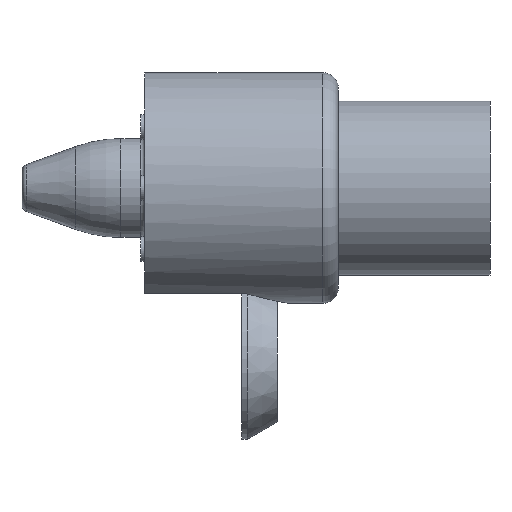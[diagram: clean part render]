
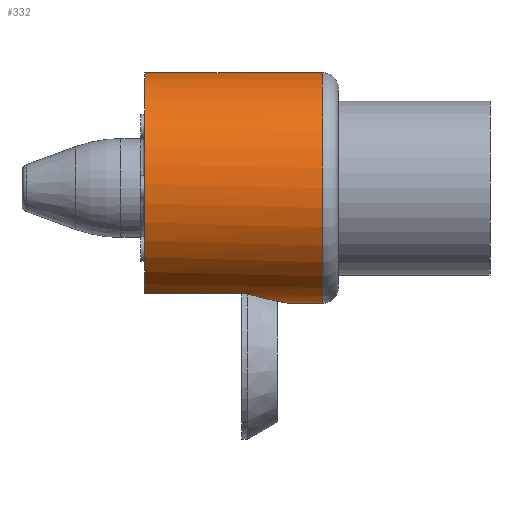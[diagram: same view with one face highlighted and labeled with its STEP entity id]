
A CAD part, left-side view. The second image highlights one B-rep face of the part: STEP entity #332.
In plain terms, the highlighted cylindrical face has radius 11.113 mm (diameter 22.225 mm), a partial arc.
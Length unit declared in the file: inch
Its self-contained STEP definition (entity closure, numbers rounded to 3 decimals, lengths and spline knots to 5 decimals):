
#31 = CYLINDRICAL_SURFACE ( 'NONE', #270, 0.4375 ) ;
#34 = LINE ( 'NONE', #1388, #131 ) ;
#50 = ORIENTED_EDGE ( 'NONE', *, *, #1076, .T. ) ;
#51 = EDGE_CURVE ( 'NONE', #1231, #901, #34, .T. ) ;
#54 = DIRECTION ( 'NONE',  ( 0., -1., 0. ) ) ;
#77 = CARTESIAN_POINT ( 'NONE',  ( -0.04015, 0.19853, -0.43576 ) ) ;
#83 = CARTESIAN_POINT ( 'NONE',  ( -0.16349, 0.33003, -0.40597 ) ) ;
#98 = CARTESIAN_POINT ( 'NONE',  ( 0., 0.18943, -0.4375 ) ) ;
#110 = VECTOR ( 'NONE', #1201, 39.37008 ) ;
#131 = VECTOR ( 'NONE', #1398, 39.37008 ) ;
#194 = ORIENTED_EDGE ( 'NONE', *, *, #920, .F. ) ;
#270 = AXIS2_PLACEMENT_3D ( 'NONE', #610, #54, #271 ) ;
#271 = DIRECTION ( 'NONE',  ( 0., 0., -1. ) ) ;
#332 = ADVANCED_FACE ( 'NONE', ( #726 ), #31, .T. ) ;
#354 = ORIENTED_EDGE ( 'NONE', *, *, #1095, .T. ) ;
#381 = CARTESIAN_POINT ( 'NONE',  ( -0.00519, 0.18943, -0.4375 ) ) ;
#409 = CARTESIAN_POINT ( 'NONE',  ( -0.02551, 0.19321, -0.43678 ) ) ;
#438 = ORIENTED_EDGE ( 'NONE', *, *, #1235, .F. ) ;
#462 = CARTESIAN_POINT ( 'NONE',  ( -0.17621, 0.35185, -0.40044 ) ) ;
#470 = VERTEX_POINT ( 'NONE', #1094 ) ;
#493 = CARTESIAN_POINT ( 'NONE',  ( 0., 0.735, 0.4375 ) ) ;
#511 = CARTESIAN_POINT ( 'NONE',  ( -0.01041, 0.18993, -0.43741 ) ) ;
#532 = CARTESIAN_POINT ( 'NONE',  ( -0.17621, 0.735, -0.40044 ) ) ;
#567 = DIRECTION ( 'NONE',  ( 0., 0., 1. ) ) ;
#576 = CIRCLE ( 'NONE', #859, 0.4375 ) ;
#583 = CARTESIAN_POINT ( 'NONE',  ( 0., 0.06, 0.4375 ) ) ;
#586 = CARTESIAN_POINT ( 'NONE',  ( -0.17406, 0.34703, -0.40138 ) ) ;
#607 = ORIENTED_EDGE ( 'NONE', *, *, #1313, .T. ) ;
#610 = CARTESIAN_POINT ( 'NONE',  ( 0., 0.735, 0. ) ) ;
#617 = CARTESIAN_POINT ( 'NONE',  ( -0.15243, 0.31323, -0.41027 ) ) ;
#621 = CARTESIAN_POINT ( 'NONE',  ( -0.0662, 0.21484, -0.43255 ) ) ;
#631 = AXIS2_PLACEMENT_3D ( 'NONE', #1166, #1295, #1283 ) ;
#636 = CARTESIAN_POINT ( 'NONE',  ( 0., 0.735, -0.4375 ) ) ;
#656 = VERTEX_POINT ( 'NONE', #532 ) ;
#698 = CARTESIAN_POINT ( 'NONE',  ( 0., 0.06, -0.4375 ) ) ;
#703 = CARTESIAN_POINT ( 'NONE',  ( -0.17621, 0.35453, -0.40044 ) ) ;
#726 = FACE_OUTER_BOUND ( 'NONE', #1268, .T. ) ;
#739 = DIRECTION ( 'NONE',  ( 0., 1., 0. ) ) ;
#746 = CARTESIAN_POINT ( 'NONE',  ( 0., 0.18943, -0.4375 ) ) ;
#747 = VERTEX_POINT ( 'NONE', #98 ) ;
#764 = CARTESIAN_POINT ( 'NONE',  ( -0.04918, 0.20345, -0.43481 ) ) ;
#842 = ORIENTED_EDGE ( 'NONE', *, *, #1192, .F. ) ;
#859 = AXIS2_PLACEMENT_3D ( 'NONE', #1160, #937, #567 ) ;
#862 = CIRCLE ( 'NONE', #631, 0.4375 ) ;
#871 = CARTESIAN_POINT ( 'NONE',  ( -0.02054, 0.19182, -0.43705 ) ) ;
#877 = LINE ( 'NONE', #1084, #1443 ) ;
#901 = VERTEX_POINT ( 'NONE', #583 ) ;
#920 = EDGE_CURVE ( 'NONE', #656, #1231, #576, .T. ) ;
#930 = VERTEX_POINT ( 'NONE', #698 ) ;
#937 = DIRECTION ( 'NONE',  ( 0., 1., 0. ) ) ;
#945 = B_SPLINE_CURVE_WITH_KNOTS ( 'NONE', 3,
 ( #746, #381, #511, #871, #409, #77, #764, #621, #1436, #1112, #1433, #1324, #1333, #617, #83, #1330 ),
 .UNSPECIFIED., .F., .F.,
 ( 4, 2, 2, 2, 2, 2, 2, 4 ),
 ( 0.00636, 0.00675, 0.00714, 0.00792, 0.0087, 0.00949, 0.01105, 0.01261 ),
 .UNSPECIFIED. ) ;
#1071 = VERTEX_POINT ( 'NONE', #586 ) ;
#1076 = EDGE_CURVE ( 'NONE', #470, #1071, #1408, .T. ) ;
#1084 = CARTESIAN_POINT ( 'NONE',  ( -0.17621, 0.57266, -0.40044 ) ) ;
#1094 = CARTESIAN_POINT ( 'NONE',  ( -0.17621, 0.35453, -0.40044 ) ) ;
#1095 = EDGE_CURVE ( 'NONE', #930, #901, #862, .T. ) ;
#1112 = CARTESIAN_POINT ( 'NONE',  ( -0.08926, 0.23506, -0.42837 ) ) ;
#1160 = CARTESIAN_POINT ( 'NONE',  ( 0., 0.735, 0. ) ) ;
#1166 = CARTESIAN_POINT ( 'NONE',  ( 0., 0.06, 0. ) ) ;
#1192 = EDGE_CURVE ( 'NONE', #470, #656, #877, .T. ) ;
#1201 = DIRECTION ( 'NONE',  ( 0., -1., 0. ) ) ;
#1209 = ORIENTED_EDGE ( 'NONE', *, *, #51, .F. ) ;
#1231 = VERTEX_POINT ( 'NONE', #493 ) ;
#1235 = EDGE_CURVE ( 'NONE', #747, #1071, #945, .T. ) ;
#1268 = EDGE_LOOP ( 'NONE', ( #1209, #194, #842, #50, #438, #607, #354 ) ) ;
#1283 = DIRECTION ( 'NONE',  ( 0., 0., 1. ) ) ;
#1287 = CARTESIAN_POINT ( 'NONE',  ( -0.17544, 0.34925, -0.40079 ) ) ;
#1295 = DIRECTION ( 'NONE',  ( 0., 1., 0. ) ) ;
#1313 = EDGE_CURVE ( 'NONE', #747, #930, #1399, .T. ) ;
#1324 = CARTESIAN_POINT ( 'NONE',  ( -0.1166, 0.26467, -0.42191 ) ) ;
#1330 = CARTESIAN_POINT ( 'NONE',  ( -0.17406, 0.34703, -0.40138 ) ) ;
#1333 = CARTESIAN_POINT ( 'NONE',  ( -0.12896, 0.28053, -0.41824 ) ) ;
#1388 = CARTESIAN_POINT ( 'NONE',  ( 0., 0.735, 0.4375 ) ) ;
#1398 = DIRECTION ( 'NONE',  ( 0., -1., 0. ) ) ;
#1399 = LINE ( 'NONE', #636, #110 ) ;
#1400 = CARTESIAN_POINT ( 'NONE',  ( -0.17406, 0.34703, -0.40138 ) ) ;
#1408 = B_SPLINE_CURVE_WITH_KNOTS ( 'NONE', 3,
 ( #703, #462, #1287, #1400 ),
 .UNSPECIFIED., .F., .F.,
 ( 4, 4 ),
 ( 0., 0.0002 ),
 .UNSPECIFIED. ) ;
#1433 = CARTESIAN_POINT ( 'NONE',  ( -0.09632, 0.24228, -0.42682 ) ) ;
#1436 = CARTESIAN_POINT ( 'NONE',  ( -0.07424, 0.22136, -0.43122 ) ) ;
#1443 = VECTOR ( 'NONE', #739, 39.37008 ) ;
